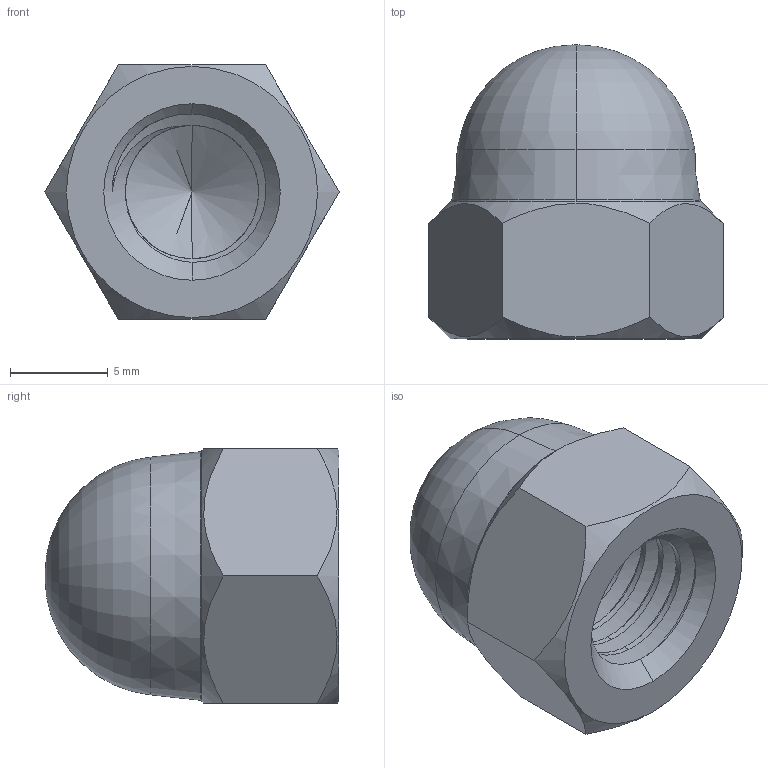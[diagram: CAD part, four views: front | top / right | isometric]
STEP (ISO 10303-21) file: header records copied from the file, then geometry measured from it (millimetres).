
FILE_DESCRIPTION (( 'STEP AP203' ), '1' );
FILE_NAME ('TAN_BAU_M8.STEP', '2026-08-24T08:28:28', ( '' ), ( '' ), 'SwSTEP 2.0', 'SolidWorks 2020', '' );
FILE_SCHEMA (( 'CONFIG_CONTROL_DESIGN' ));
Length unit declared in the file: millimetre
Products named in the file (1): TAN_BAU_M8
Bounding box: 15.01 x 15 x 13 mm (x, y, z)
Volume: 1238.7 mm3; surface area: 1120 mm2
Topology: 1 solids, 1 shells, 39 faces, 103 edges, 65 vertices
Faces by surface type: cylinder 13, cone 10, plane 9, torus 4, bspline 3
Entity records: 2513 total; most frequent: CARTESIAN_POINT 1602, ORIENTED_EDGE 202, DIRECTION 145, EDGE_CURVE 101, VERTEX_POINT 65, AXIS2_PLACEMENT_3D 56, EDGE_LOOP 40, FACE_OUTER_BOUND 39
